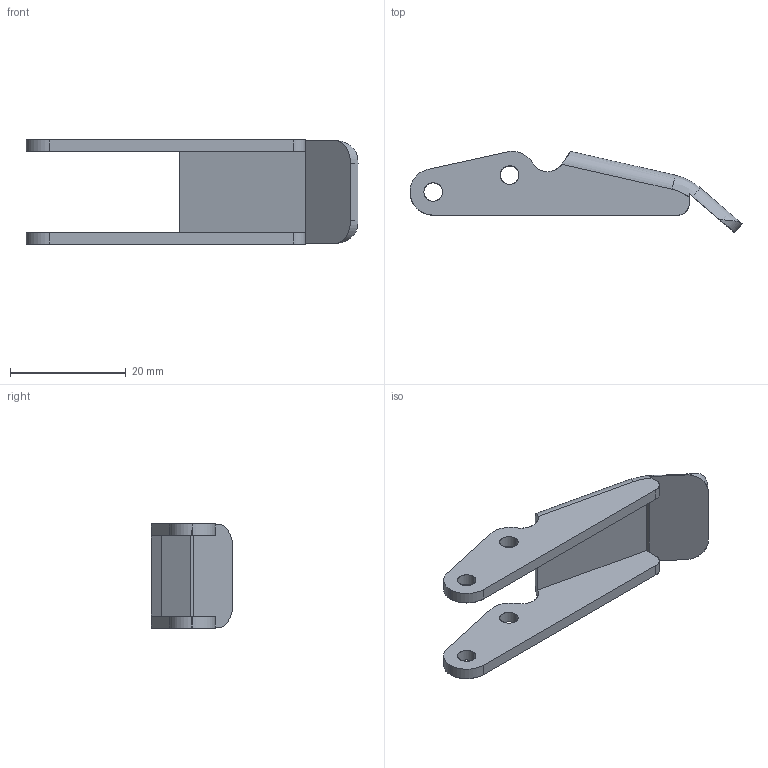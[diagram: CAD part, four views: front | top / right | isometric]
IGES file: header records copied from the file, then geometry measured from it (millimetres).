
Start section: SolidWorks IGES FILE using analytic representation for surfaces
Global section: file name: C:\Documents and Settings\brechard\Bureau\GE 61\60.010.00.IGS; native system: SolidWorks 2001Plus by SolidWorks Corporation; preprocessor: Version 5.3; author: brechard; date: 050126.103331; units: millimetre
Bounding box: 57.3 x 14 x 18 mm (x, y, z)
Surface area: 3089.2 mm2 (no closed solid volume)
Topology: 0 solids, 0 shells, 44 faces, 676 edges, 676 vertices
Faces by surface type: revolution 25, bspline 19
